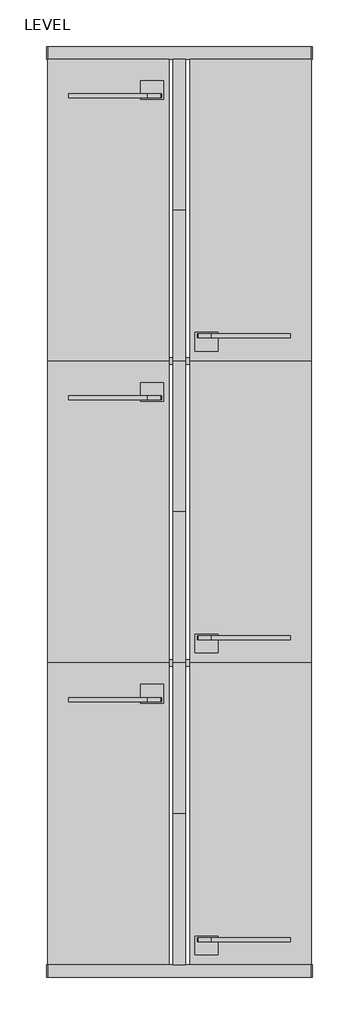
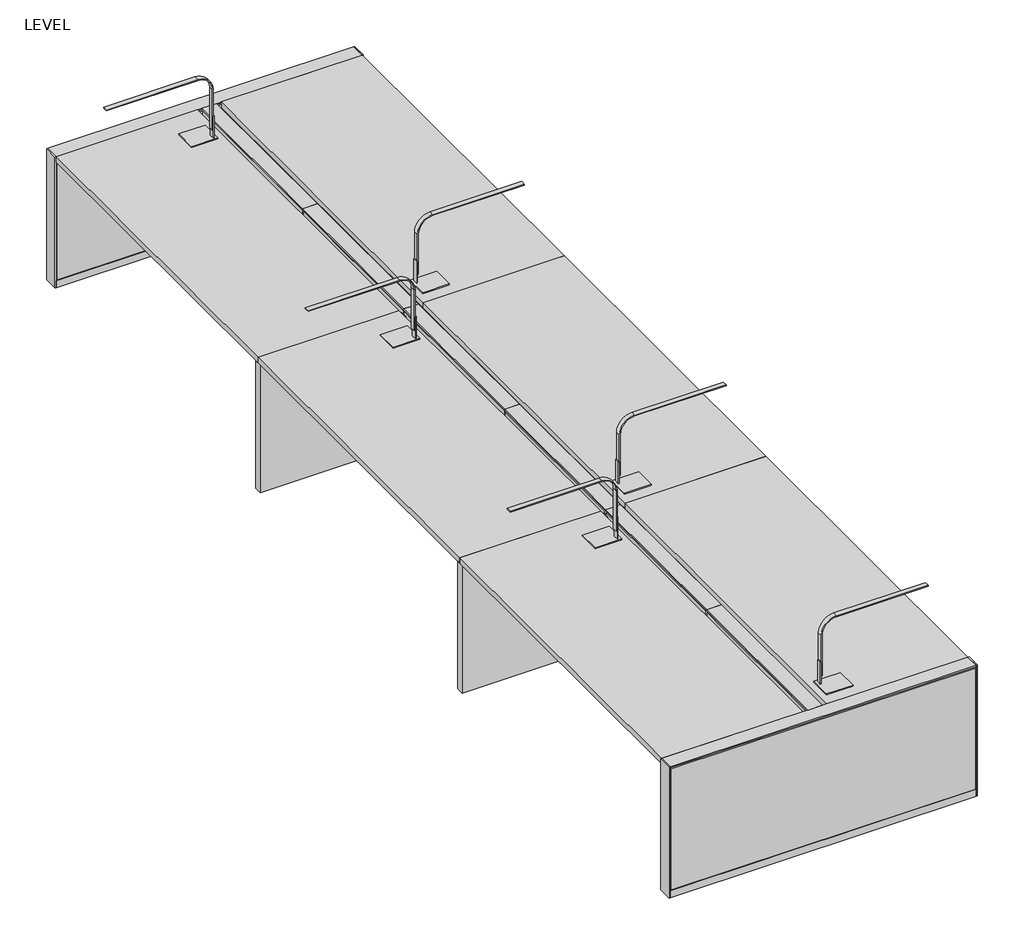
# One storey, incomplete: 18 furniture elements, 6 light fixtures.
"""IFC4 building model written with IfcOpenShell, lengths in millimetres."""

from ifc_helpers import new_model, si_unit, origin, place, context, project, spatial, transform, mapped, element, save
from components import furniture_dfdae043, furniture_301a0b17, furniture_bab812d2, furniture_1e764f3c, furniture_0e3993a4, haworth_worksurface_supports_end_end_panel_support_78a54541, freestanding_pivot_89a99560

model = new_model("IFC4")

# Units and contexts
model_context = context("Model", 3, world=origin())
ifc_project = project(units=[si_unit("LENGTHUNIT", "METRE", prefix="MILLI")], contexts=[model_context])

# Site, building, storey
site = spatial("IfcSite", under=ifc_project)
building = spatial("IfcBuilding", under=site)
storey = spatial("IfcBuildingStorey", under=building, Name="LEVEL", Elevation=0.0)

# Furniture
placement = place(None, origin())
furniture_shape = furniture_dfdae043(model_context)
element("IfcFurniture", 1, ObjectType="Haworth_Compose-Panel-Benching : 36\" Width", at=placement, inside=storey, context=model_context, shape_type="MappedRepresentation", body=[
    mapped(furniture_shape, transform((10752.3830335, -40009.9395902, 0.0), x_axis=(0.0, -1.0, 0.0), y_axis=(1.0, 0.0, 0.0), z_axis=(0.0, 0.0, 1.0))),
])
element("IfcFurniture", 2, ObjectType="Haworth_Compose-Panel-Benching : 36\" Width", at=placement, inside=storey, context=model_context, shape_type="MappedRepresentation", body=[
    mapped(furniture_shape, transform((10752.3830335, -39095.5395902, 0.0), x_axis=(0.0, -1.0, 0.0), y_axis=(1.0, 0.0, 0.0), z_axis=(0.0, 0.0, 1.0))),
])
element("IfcFurniture", 3, ObjectType="Haworth_Compose-Panel-Benching : 36\" Width", at=placement, inside=storey, context=model_context, shape_type="MappedRepresentation", body=[
    mapped(furniture_shape, transform((10752.3830335, -38181.1395902, 0.0), x_axis=(0.0, -1.0, 0.0), y_axis=(1.0, 0.0, 0.0), z_axis=(0.0, 0.0, 1.0))),
])
element("IfcFurniture", 4, ObjectType="Haworth_Compose-Panel-Benching : 36\" Width", at=placement, inside=storey, context=model_context, shape_type="MappedRepresentation", body=[
    mapped(furniture_shape, transform((10752.3830335, -37266.7395902, 0.0), x_axis=(0.0, -1.0, 0.0), y_axis=(1.0, 0.0, 0.0), z_axis=(0.0, 0.0, 1.0))),
])
element("IfcFurniture", 5, ObjectType="Haworth_Compose-Panel-Benching : 36\" Width", at=placement, inside=storey, context=model_context, shape_type="MappedRepresentation", body=[
    mapped(furniture_shape, transform((10752.3830335, -36352.3395902, 0.0), x_axis=(0.0, -1.0, 0.0), y_axis=(1.0, 0.0, 0.0), z_axis=(0.0, 0.0, 1.0))),
])
element("IfcFurniture", 6, ObjectType="Haworth_Compose-Panel-Benching : 36\" Width", at=placement, inside=storey, context=model_context, shape_type="MappedRepresentation", body=[
    mapped(furniture_shape, transform((10752.3830335, -35437.9395902, 0.0), x_axis=(0.0, -1.0, 0.0), y_axis=(1.0, 0.0, 0.0), z_axis=(0.0, 0.0, 1.0))),
])
furniture_2_shape = furniture_301a0b17(model_context)
element("IfcFurniture", 7, ObjectType="Haworth_Compose-Panel-Benching : 63\" Width", at=placement, inside=storey, context=model_context, shape_type="MappedRepresentation", body=[
    mapped(furniture_2_shape, transform((10749.9427433, -40507.6798803, 0.0), x_axis=(1.0, 0.0, 0.0), y_axis=(0.0, 1.0, 0.0), z_axis=(0.0, 0.0, 1.0))),
])
furniture_3_shape = furniture_bab812d2(model_context)
element("IfcFurniture", 8, ObjectType="Haworth_Compose-Panel-Benching : 63\" Width", at=placement, inside=storey, context=model_context, shape_type="MappedRepresentation", body=[
    mapped(furniture_3_shape, transform((10749.9427433, -34945.0798803, 0.0), x_axis=(1.0, 0.0, 0.0), y_axis=(0.0, 1.0, 0.0), z_axis=(0.0, 0.0, 1.0))),
])
furniture_4_shape = furniture_1e764f3c(model_context)
element("IfcFurniture", 9, ObjectType="Haworth_Worksurface-Rectangular : 72\" x 29\"", at=placement, inside=storey, context=model_context, shape_type="MappedRepresentation", body=[
    mapped(furniture_4_shape, transform((10320.5830335, -37726.3798803, 0.0), x_axis=(0.0, 1.0, 0.0), y_axis=(-1.0, 0.0, 0.0), z_axis=(0.0, 0.0, 1.0))),
])
element("IfcFurniture", 10, ObjectType="Haworth_Worksurface-Rectangular : 72\" x 29\"", at=placement, inside=storey, context=model_context, shape_type="MappedRepresentation", body=[
    mapped(furniture_4_shape, transform((10320.5830335, -35897.5798803, 0.0), x_axis=(0.0, 1.0, 0.0), y_axis=(-1.0, 0.0, 0.0), z_axis=(0.0, 0.0, 1.0))),
])
element("IfcFurniture", 11, ObjectType="Haworth_Worksurface-Rectangular : 72\" x 29\"", at=placement, inside=storey, context=model_context, shape_type="MappedRepresentation", body=[
    mapped(furniture_4_shape, transform((11184.1830335, -39555.1798803, 0.0), x_axis=(0.0, -1.0, 0.0), y_axis=(1.0, 0.0, 0.0), z_axis=(0.0, 0.0, 1.0))),
])
furniture_5_shape = furniture_0e3993a4(model_context)
element("IfcFurniture", 12, ObjectType="Haworth_Worksurface-Rectangular : 72\" x 29\"", at=placement, inside=storey, context=model_context, shape_type="MappedRepresentation", body=[
    mapped(furniture_5_shape, transform((10320.5830335, -39555.1798803, 0.0), x_axis=(0.0, -1.0, 0.0), y_axis=(1.0, 0.0, 0.0), z_axis=(0.0, 0.0, 1.0))),
])
element("IfcFurniture", 13, ObjectType="Haworth_Worksurface-Rectangular : 72\" x 29\"", at=placement, inside=storey, context=model_context, shape_type="MappedRepresentation", body=[
    mapped(furniture_5_shape, transform((11184.1830335, -37726.3798803, 0.0), x_axis=(0.0, 1.0, 0.0), y_axis=(-1.0, 0.0, 0.0), z_axis=(0.0, 0.0, 1.0))),
])
element("IfcFurniture", 14, ObjectType="Haworth_Worksurface-Rectangular : 72\" x 29\"", at=placement, inside=storey, context=model_context, shape_type="MappedRepresentation", body=[
    mapped(furniture_5_shape, transform((11184.1830335, -35897.5798803, 0.0), x_axis=(0.0, 1.0, 0.0), y_axis=(-1.0, 0.0, 0.0), z_axis=(0.0, 0.0, 1.0))),
])
haworth_worksurface_supports_end_end_panel_support_shape = haworth_worksurface_supports_end_end_panel_support_78a54541(model_context)
element("IfcFurniture", 15, ObjectType="Haworth_Worksurface-Supports-End : End Panel Support", at=placement, inside=storey, context=model_context, shape_type="MappedRepresentation", body=[
    mapped(haworth_worksurface_supports_end_end_panel_support_shape, transform((10533.03651, -38856.6798803, 0.0), x_axis=(0.0, 1.0, 0.0), y_axis=(-1.0, 0.0, 0.0), z_axis=(0.0, 0.0, 1.0))),
])
element("IfcFurniture", 16, ObjectType="Haworth_Worksurface-Supports-End : End Panel Support", at=placement, inside=storey, context=model_context, shape_type="MappedRepresentation", body=[
    mapped(haworth_worksurface_supports_end_end_panel_support_shape, transform((10971.7295569, -38424.8798803, 0.0), x_axis=(0.0, -1.0, 0.0), y_axis=(1.0, 0.0, 0.0), z_axis=(0.0, 0.0, 1.0))),
])
element("IfcFurniture", 17, ObjectType="Haworth_Worksurface-Supports-End : End Panel Support", at=placement, inside=storey, context=model_context, shape_type="MappedRepresentation", body=[
    mapped(haworth_worksurface_supports_end_end_panel_support_shape, transform((10971.7295569, -36596.0798803, 0.0), x_axis=(0.0, -1.0, 0.0), y_axis=(1.0, 0.0, 0.0), z_axis=(0.0, 0.0, 1.0))),
])
element("IfcFurniture", 18, ObjectType="Haworth_Worksurface-Supports-End : End Panel Support", at=placement, inside=storey, context=model_context, shape_type="MappedRepresentation", body=[
    mapped(haworth_worksurface_supports_end_end_panel_support_shape, transform((10533.03651, -37027.8798803, 0.0), x_axis=(0.0, 1.0, 0.0), y_axis=(-1.0, 0.0, 0.0), z_axis=(0.0, 0.0, 1.0))),
])

# Light fixtures
freestanding_pivot_shape = freestanding_pivot_89a99560(model_context)
element("IfcLightFixture", 19, ObjectType="Haworth_Lighting-LIM : Freestanding Pivot", at=placement, inside=storey, context=model_context, shape_type="MappedRepresentation", body=[
    mapped(freestanding_pivot_shape, transform((10896.1116636, -38264.1266718, 0.0), x_axis=(-1.0, 0.0, 0.0), y_axis=(0.0, -1.0, 0.0), z_axis=(0.0, 0.0, 1.0))),
])
element("IfcLightFixture", 20, ObjectType="Haworth_Lighting-LIM : Freestanding Pivot", at=placement, inside=storey, context=model_context, shape_type="MappedRepresentation", body=[
    mapped(freestanding_pivot_shape, transform((10896.1116636, -36435.3266718, 0.0), x_axis=(-1.0, 0.0, 0.0), y_axis=(0.0, -1.0, 0.0), z_axis=(0.0, 0.0, 1.0))),
])
element("IfcLightFixture", 21, ObjectType="Haworth_Lighting-LIM : Freestanding Pivot", at=placement, inside=storey, context=model_context, shape_type="MappedRepresentation", body=[
    mapped(freestanding_pivot_shape, transform((10608.6544034, -37258.4830888, 0.0), x_axis=(1.0, 0.0, 0.0), y_axis=(0.0, 1.0, 0.0), z_axis=(0.0, 0.0, 1.0))),
])
element("IfcLightFixture", 22, ObjectType="Haworth_Lighting-LIM : Freestanding Pivot", at=placement, inside=storey, context=model_context, shape_type="MappedRepresentation", body=[
    mapped(freestanding_pivot_shape, transform((10608.6544034, -35429.6830888, 0.0), x_axis=(1.0, 0.0, 0.0), y_axis=(0.0, 1.0, 0.0), z_axis=(0.0, 0.0, 1.0))),
])
element("IfcLightFixture", 23, ObjectType="Haworth_Lighting-LIM : Freestanding Pivot", at=placement, inside=storey, context=model_context, shape_type="MappedRepresentation", body=[
    mapped(freestanding_pivot_shape, transform((10896.1116636, -40092.9266718, 0.0), x_axis=(-1.0, 0.0, 0.0), y_axis=(0.0, -1.0, 0.0), z_axis=(0.0, 0.0, 1.0))),
])
element("IfcLightFixture", 24, ObjectType="Haworth_Lighting-LIM : Freestanding Pivot", at=placement, inside=storey, context=model_context, shape_type="MappedRepresentation", body=[
    mapped(freestanding_pivot_shape, transform((10608.6544034, -39087.2830888, 0.0), x_axis=(1.0, 0.0, 0.0), y_axis=(0.0, 1.0, 0.0), z_axis=(0.0, 0.0, 1.0))),
])

save(model, "model.ifc")
